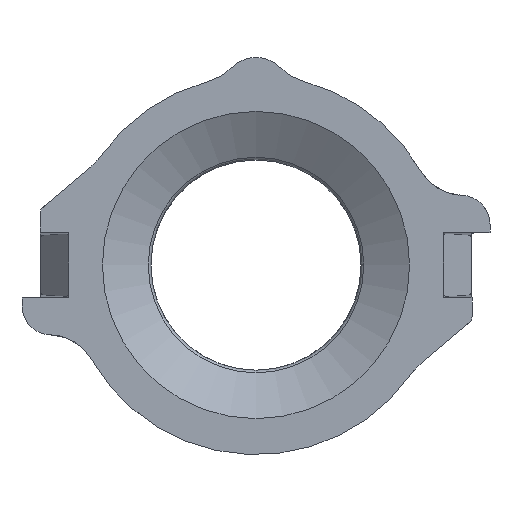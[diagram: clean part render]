
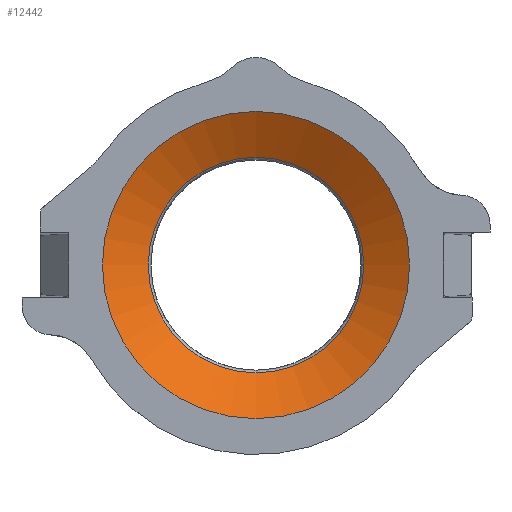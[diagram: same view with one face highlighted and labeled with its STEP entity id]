
A CAD part, top view. The second image highlights one B-rep face of the part: STEP entity #12442.
In plain terms, the highlighted conical face has half-angle 60 degrees and reference radius 12.801 mm.
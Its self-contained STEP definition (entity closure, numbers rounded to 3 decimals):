
#222=CONICAL_SURFACE('',#13005,12.801,1.047);
#399=CIRCLE('',#13006,12.801);
#400=CIRCLE('',#13007,8.985);
#2477=ORIENTED_EDGE('',*,*,#5146,.F.);
#2478=ORIENTED_EDGE('',*,*,#5147,.T.);
#5146=EDGE_CURVE('',#6496,#6496,#399,.T.);
#5147=EDGE_CURVE('',#6497,#6497,#400,.T.);
#6496=VERTEX_POINT('',#17086);
#6497=VERTEX_POINT('',#17088);
#7629=EDGE_LOOP('',(#2477));
#7630=EDGE_LOOP('',(#2478));
#8158=FACE_BOUND('',#7629,.T.);
#8159=FACE_BOUND('',#7630,.T.);
#12442=ADVANCED_FACE('',(#8158,#8159),#222,.F.);
#13005=AXIS2_PLACEMENT_3D('',#17084,#14151,#14152);
#13006=AXIS2_PLACEMENT_3D('',#17085,#14153,#14154);
#13007=AXIS2_PLACEMENT_3D('',#17087,#14155,#14156);
#14151=DIRECTION('',(0.,0.,1.));
#14152=DIRECTION('',(1.,0.,0.));
#14153=DIRECTION('',(0.,0.,-1.));
#14154=DIRECTION('',(-1.,0.,0.));
#14155=DIRECTION('',(0.,0.,-1.));
#14156=DIRECTION('',(-1.,0.,0.));
#17084=CARTESIAN_POINT('',(0.,0.,4.1));
#17085=CARTESIAN_POINT('',(0.,0.,4.1));
#17086=CARTESIAN_POINT('',(-12.801,0.,4.1));
#17087=CARTESIAN_POINT('',(0.,0.,1.896));
#17088=CARTESIAN_POINT('',(-8.985,0.,1.896));
